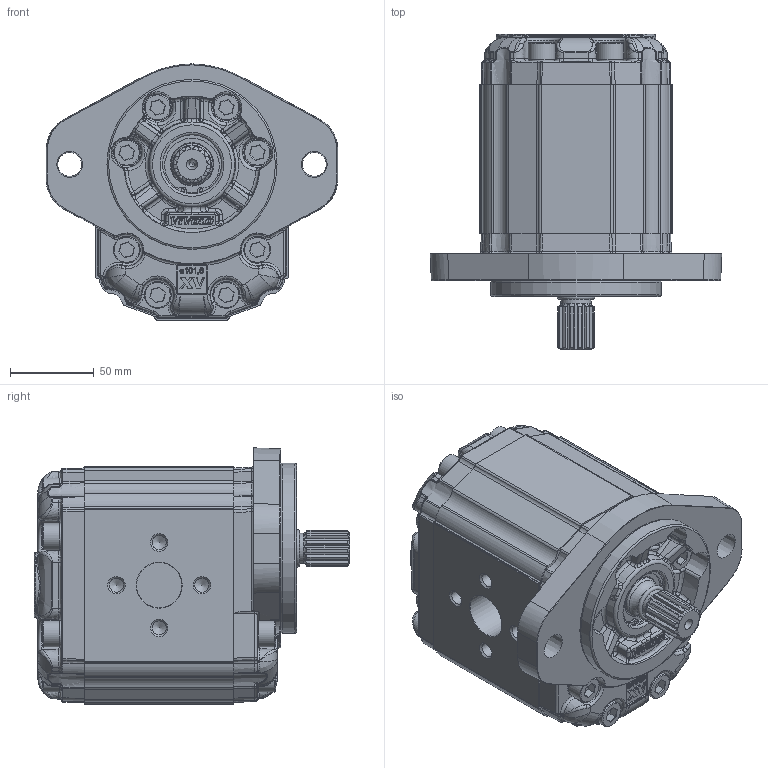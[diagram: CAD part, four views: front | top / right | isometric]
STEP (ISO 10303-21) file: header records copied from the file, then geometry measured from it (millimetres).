
FILE_DESCRIPTION(/* description */ ('Unknown'),/* implementation_level */ '2;1');
FILE_NAME(/* name */ 'X3M7931IBBF',/* time_stamp */ '2021-04-26T12:32:00+02:00',/* author */ ('Unknown'),/* organization */ ('Unknown'),/* preprocessor_version */ 'ST-DEVELOPER v16.7',/* originating_system */ 'Solid Edge',/* authorisation */ 'Unknown');
FILE_SCHEMA (('AUTOMOTIVE_DESIGN {1 0 10303 214 3 1 1}'));
Products named in the file (5): X3M7931IBBF; X3M31; 3I; X3BBH89; XM331-F
Assembly tree (4 placements, depth 2):
  X3M7931IBBF
    X3M31
    3I
    X3BBH89
    XM331-F
Bounding box: 174 x 188.2 x 153 mm (x, y, z)
Volume: 2111682.8 mm3; surface area: 208128.8 mm2
Topology: 4 solids, 21 shells, 3065 faces, 7898 edges, 4997 vertices
Faces by surface type: bspline 1317, plane 873, cylinder 654, cone 106, torus 99, sphere 16
Full cylindrical faces by diameter (mm): 2 x2, 8.376 x8, 10 x16, 15.8 x16, 16 x16, 18 x2, 24.98 x1, 25.5 x1, 26.8 x1, 27 x2, 29.425 x1, 31.42 x1, 33.304 x1, 34.7 x1, 35 x2, 35.2 x1, 37 x1, 101.6 x1
Entity records: 162890 total; most frequent: CARTESIAN_POINT 82483, ORIENTED_EDGE 15328, EDGE_CURVE 7664, DIRECTION 6742, B_SPLINE_CURVE_WITH_KNOTS 4985, VERTEX_POINT 4931, FACE_BOUND 3367, EDGE_LOOP 3358
